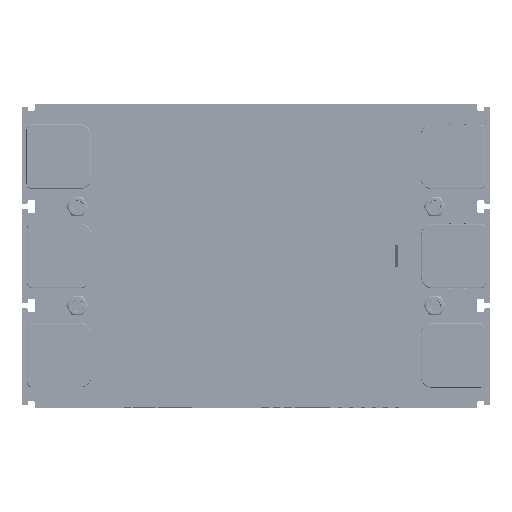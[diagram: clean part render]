
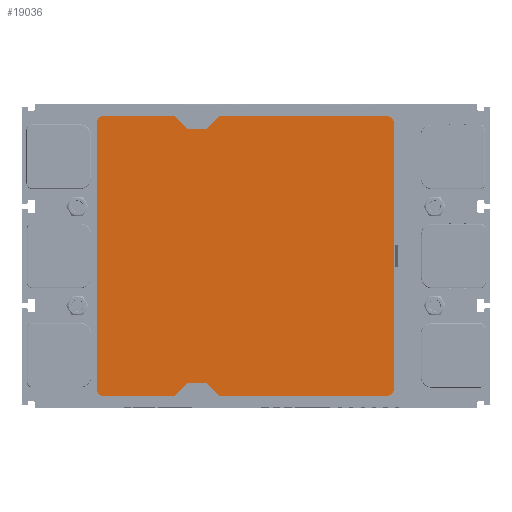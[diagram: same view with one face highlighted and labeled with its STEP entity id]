
A CAD part, front view. The second image highlights one B-rep face of the part: STEP entity #19036.
In plain terms, the highlighted planar face has unit normal (0, -1, 0) as drawn and (0, 0, -1) by its records, which use the part's own axes.
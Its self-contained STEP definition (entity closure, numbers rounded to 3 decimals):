
#129 = CARTESIAN_POINT ( 'NONE',  ( 2., -14.5, 0. ) ) ;
#557 = VECTOR ( 'NONE', #87651, 1000. ) ;
#632 = ORIENTED_EDGE ( 'NONE', *, *, #109431, .T. ) ;
#760 = EDGE_CURVE ( 'NONE', #121177, #17910, #127806, .T. ) ;
#1196 = CARTESIAN_POINT ( 'NONE',  ( 94., 49.5, 0. ) ) ;
#2713 = LINE ( 'NONE', #73011, #40742 ) ;
#2890 = LINE ( 'NONE', #34022, #103761 ) ;
#3775 = ORIENTED_EDGE ( 'NONE', *, *, #17451, .T. ) ;
#4247 = CARTESIAN_POINT ( 'NONE',  ( 4.5, 0., 0. ) ) ;
#7580 = ORIENTED_EDGE ( 'NONE', *, *, #87988, .T. ) ;
#8404 = LINE ( 'NONE', #98351, #29282 ) ;
#9223 = CARTESIAN_POINT ( 'NONE',  ( 96.5, 88., 0. ) ) ;
#12140 = VERTEX_POINT ( 'NONE', #95982 ) ;
#14289 = ORIENTED_EDGE ( 'NONE', *, *, #104152, .T. ) ;
#17451 = EDGE_CURVE ( 'NONE', #115375, #47722, #73257, .T. ) ;
#17910 = VERTEX_POINT ( 'NONE', #130240 ) ;
#19036 = ADVANCED_FACE ( 'NONE', ( #32866 ), #35146, .T. ) ;
#19370 = ORIENTED_EDGE ( 'NONE', *, *, #70355, .T. ) ;
#19657 = AXIS2_PLACEMENT_3D ( 'NONE', #113875, #65415, #90407 ) ;
#20799 = DIRECTION ( 'NONE',  ( 0., -1., 0. ) ) ;
#21062 = VERTEX_POINT ( 'NONE', #76283 ) ;
#21742 = DIRECTION ( 'NONE',  ( -0.707, -0.707, 0. ) ) ;
#22848 = DIRECTION ( 'NONE',  ( 0., -1., 0. ) ) ;
#23698 = CARTESIAN_POINT ( 'NONE',  ( 2., 86., 0. ) ) ;
#24669 = CARTESIAN_POINT ( 'NONE',  ( 0., 45., 0. ) ) ;
#25900 = VERTEX_POINT ( 'NONE', #24669 ) ;
#26517 = ORIENTED_EDGE ( 'NONE', *, *, #145596, .T. ) ;
#29282 = VECTOR ( 'NONE', #133572, 1000. ) ;
#29338 = DIRECTION ( 'NONE',  ( 0.707, 0.707, 0. ) ) ;
#30311 = DIRECTION ( 'NONE',  ( 0., 1., 0. ) ) ;
#32128 = CARTESIAN_POINT ( 'NONE',  ( 0., 86., 0. ) ) ;
#32685 = AXIS2_PLACEMENT_3D ( 'NONE', #44537, #141904, #68919 ) ;
#32866 = FACE_OUTER_BOUND ( 'NONE', #105371, .T. ) ;
#34022 = CARTESIAN_POINT ( 'NONE',  ( 98.5, 0., 0. ) ) ;
#35146 = PLANE ( 'NONE',  #103146 ) ;
#35420 = DIRECTION ( 'NONE',  ( 0., 0., -1. ) ) ;
#36820 = DIRECTION ( 'NONE',  ( 0., 0., -1. ) ) ;
#38752 = VERTEX_POINT ( 'NONE', #32128 ) ;
#39716 = EDGE_CURVE ( 'NONE', #55032, #52194, #74683, .T. ) ;
#40742 = VECTOR ( 'NONE', #60284, 1000. ) ;
#40924 = ORIENTED_EDGE ( 'NONE', *, *, #62501, .T. ) ;
#42907 = DIRECTION ( 'NONE',  ( 0., 1., 0. ) ) ;
#44537 = CARTESIAN_POINT ( 'NONE',  ( 96.5, 86., 0. ) ) ;
#46322 = DIRECTION ( 'NONE',  ( 0., 0., -1. ) ) ;
#47171 = EDGE_CURVE ( 'NONE', #21062, #12140, #8404, .T. ) ;
#47722 = VERTEX_POINT ( 'NONE', #75809 ) ;
#49170 = ORIENTED_EDGE ( 'NONE', *, *, #119529, .T. ) ;
#50692 = CARTESIAN_POINT ( 'NONE',  ( 98.5, 86., 0. ) ) ;
#51953 = LINE ( 'NONE', #66022, #70888 ) ;
#52194 = VERTEX_POINT ( 'NONE', #9223 ) ;
#53510 = CARTESIAN_POINT ( 'NONE',  ( 0., 0., 0. ) ) ;
#54861 = EDGE_CURVE ( 'NONE', #47722, #91793, #147298, .T. ) ;
#55032 = VERTEX_POINT ( 'NONE', #134507 ) ;
#57712 = VECTOR ( 'NONE', #21742, 1000. ) ;
#58225 = ORIENTED_EDGE ( 'NONE', *, *, #760, .T. ) ;
#58369 = CARTESIAN_POINT ( 'NONE',  ( 98.5, 60.5, 0. ) ) ;
#60284 = DIRECTION ( 'NONE',  ( 0., -1., 0. ) ) ;
#62501 = EDGE_CURVE ( 'NONE', #91793, #133547, #2713, .T. ) ;
#65415 = DIRECTION ( 'NONE',  ( 0., 0., -1. ) ) ;
#66022 = CARTESIAN_POINT ( 'NONE',  ( 0., 45., 0. ) ) ;
#67093 = ORIENTED_EDGE ( 'NONE', *, *, #125735, .T. ) ;
#68480 = CARTESIAN_POINT ( 'NONE',  ( 0., -16.5, 0. ) ) ;
#68903 = AXIS2_PLACEMENT_3D ( 'NONE', #129, #36820, #120944 ) ;
#68919 = DIRECTION ( 'NONE',  ( -1., 0., 0. ) ) ;
#69648 = CARTESIAN_POINT ( 'NONE',  ( 98.5, 0., 0. ) ) ;
#70355 = EDGE_CURVE ( 'NONE', #109485, #93513, #2890, .T. ) ;
#70888 = VECTOR ( 'NONE', #29338, 1000. ) ;
#73011 = CARTESIAN_POINT ( 'NONE',  ( 94., 0., 0. ) ) ;
#73257 = LINE ( 'NONE', #69648, #101812 ) ;
#74683 = LINE ( 'NONE', #89771, #557 ) ;
#75809 = CARTESIAN_POINT ( 'NONE',  ( 98.5, 60.5, 0. ) ) ;
#76283 = CARTESIAN_POINT ( 'NONE',  ( 4.5, 56., 0. ) ) ;
#87651 = DIRECTION ( 'NONE',  ( 1., 0., 0. ) ) ;
#87988 = EDGE_CURVE ( 'NONE', #52194, #115375, #138978, .T. ) ;
#89771 = CARTESIAN_POINT ( 'NONE',  ( 0., 88., 0. ) ) ;
#90165 = ORIENTED_EDGE ( 'NONE', *, *, #47171, .T. ) ;
#90407 = DIRECTION ( 'NONE',  ( -1., 0., 0. ) ) ;
#91509 = CARTESIAN_POINT ( 'NONE',  ( 96.5, -16.5, 0. ) ) ;
#91793 = VERTEX_POINT ( 'NONE', #127460 ) ;
#92662 = CARTESIAN_POINT ( 'NONE',  ( 98.5, -14.5, 0. ) ) ;
#93513 = VERTEX_POINT ( 'NONE', #92662 ) ;
#93728 = ORIENTED_EDGE ( 'NONE', *, *, #54861, .T. ) ;
#95982 = CARTESIAN_POINT ( 'NONE',  ( 0., 60.5, 0. ) ) ;
#97032 = EDGE_CURVE ( 'NONE', #17910, #25900, #106331, .T. ) ;
#98351 = CARTESIAN_POINT ( 'NONE',  ( 4.5, 56., 0. ) ) ;
#100156 = ORIENTED_EDGE ( 'NONE', *, *, #97032, .T. ) ;
#101812 = VECTOR ( 'NONE', #20799, 1000. ) ;
#103146 = AXIS2_PLACEMENT_3D ( 'NONE', #143724, #46322, #133034 ) ;
#103761 = VECTOR ( 'NONE', #22848, 1000. ) ;
#104152 = EDGE_CURVE ( 'NONE', #123806, #21062, #141537, .T. ) ;
#104686 = CARTESIAN_POINT ( 'NONE',  ( 94., 49.5, 0. ) ) ;
#105371 = EDGE_LOOP ( 'NONE', ( #26517, #632, #154090, #7580, #3775, #93728, #40924, #107348, #19370, #137492, #67093, #58225, #100156, #49170, #14289, #90165 ) ) ;
#106331 = LINE ( 'NONE', #111001, #150243 ) ;
#107164 = VECTOR ( 'NONE', #154241, 1000. ) ;
#107348 = ORIENTED_EDGE ( 'NONE', *, *, #121349, .T. ) ;
#108760 = CARTESIAN_POINT ( 'NONE',  ( 98.5, 45., 0. ) ) ;
#108999 = LINE ( 'NONE', #68480, #107164 ) ;
#109431 = EDGE_CURVE ( 'NONE', #38752, #55032, #111091, .T. ) ;
#109485 = VERTEX_POINT ( 'NONE', #108760 ) ;
#110482 = CARTESIAN_POINT ( 'NONE',  ( 4.5, 49.5, 0. ) ) ;
#110944 = VECTOR ( 'NONE', #30311, 1000. ) ;
#111001 = CARTESIAN_POINT ( 'NONE',  ( 0., 0., 0. ) ) ;
#111091 = CIRCLE ( 'NONE', #137366, 2. ) ;
#113875 = CARTESIAN_POINT ( 'NONE',  ( 96.5, -14.5, 0. ) ) ;
#115375 = VERTEX_POINT ( 'NONE', #50692 ) ;
#116128 = VECTOR ( 'NONE', #129313, 1000. ) ;
#119529 = EDGE_CURVE ( 'NONE', #25900, #123806, #51953, .T. ) ;
#120568 = DIRECTION ( 'NONE',  ( -1., 0., 0. ) ) ;
#120944 = DIRECTION ( 'NONE',  ( -1., 0., 0. ) ) ;
#121177 = VERTEX_POINT ( 'NONE', #152842 ) ;
#121349 = EDGE_CURVE ( 'NONE', #133547, #109485, #152351, .T. ) ;
#123679 = EDGE_CURVE ( 'NONE', #93513, #142596, #146052, .T. ) ;
#123806 = VERTEX_POINT ( 'NONE', #110482 ) ;
#125735 = EDGE_CURVE ( 'NONE', #142596, #121177, #108999, .T. ) ;
#127460 = CARTESIAN_POINT ( 'NONE',  ( 94., 56., 0. ) ) ;
#127806 = CIRCLE ( 'NONE', #68903, 2. ) ;
#129313 = DIRECTION ( 'NONE',  ( 0.707, -0.707, 0. ) ) ;
#129869 = VECTOR ( 'NONE', #42907, 1000. ) ;
#130240 = CARTESIAN_POINT ( 'NONE',  ( 0., -14.5, 0. ) ) ;
#133034 = DIRECTION ( 'NONE',  ( -1., 0., 0. ) ) ;
#133547 = VERTEX_POINT ( 'NONE', #1196 ) ;
#133572 = DIRECTION ( 'NONE',  ( -0.707, 0.707, 0. ) ) ;
#134507 = CARTESIAN_POINT ( 'NONE',  ( 2., 88., 0. ) ) ;
#135546 = DIRECTION ( 'NONE',  ( 0., 1., 0. ) ) ;
#135654 = LINE ( 'NONE', #53510, #129869 ) ;
#137366 = AXIS2_PLACEMENT_3D ( 'NONE', #23698, #35420, #120568 ) ;
#137492 = ORIENTED_EDGE ( 'NONE', *, *, #123679, .T. ) ;
#138978 = CIRCLE ( 'NONE', #32685, 2. ) ;
#141537 = LINE ( 'NONE', #4247, #110944 ) ;
#141904 = DIRECTION ( 'NONE',  ( 0., 0., -1. ) ) ;
#142596 = VERTEX_POINT ( 'NONE', #91509 ) ;
#143724 = CARTESIAN_POINT ( 'NONE',  ( 0., 0., 0. ) ) ;
#145596 = EDGE_CURVE ( 'NONE', #12140, #38752, #135654, .T. ) ;
#146052 = CIRCLE ( 'NONE', #19657, 2. ) ;
#147298 = LINE ( 'NONE', #58369, #57712 ) ;
#150243 = VECTOR ( 'NONE', #135546, 1000. ) ;
#152351 = LINE ( 'NONE', #104686, #116128 ) ;
#152842 = CARTESIAN_POINT ( 'NONE',  ( 2., -16.5, 0. ) ) ;
#154090 = ORIENTED_EDGE ( 'NONE', *, *, #39716, .T. ) ;
#154241 = DIRECTION ( 'NONE',  ( -1., 0., 0. ) ) ;
